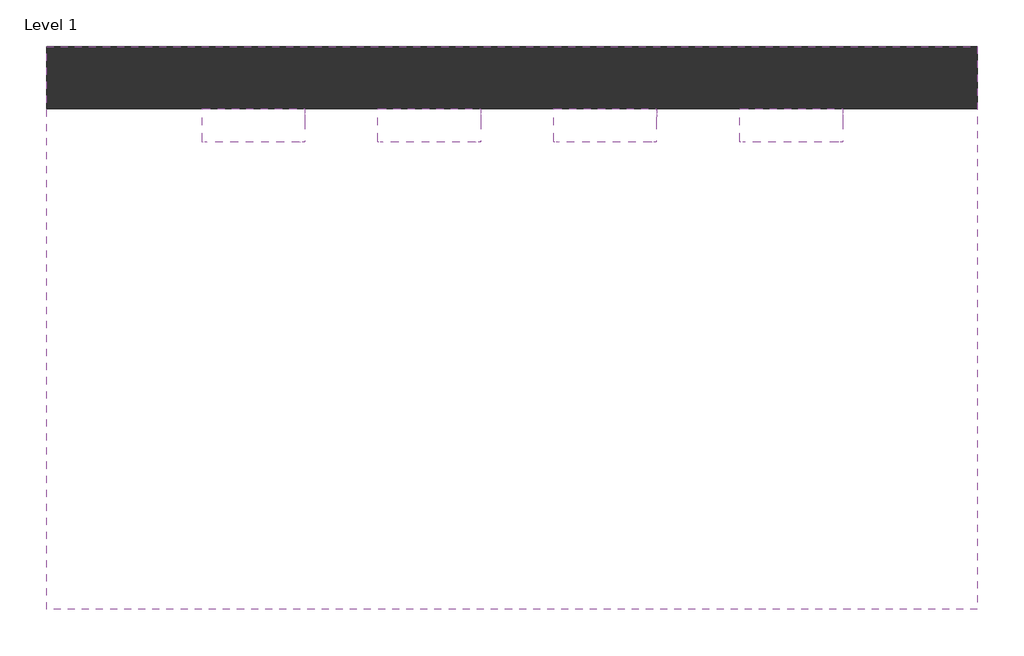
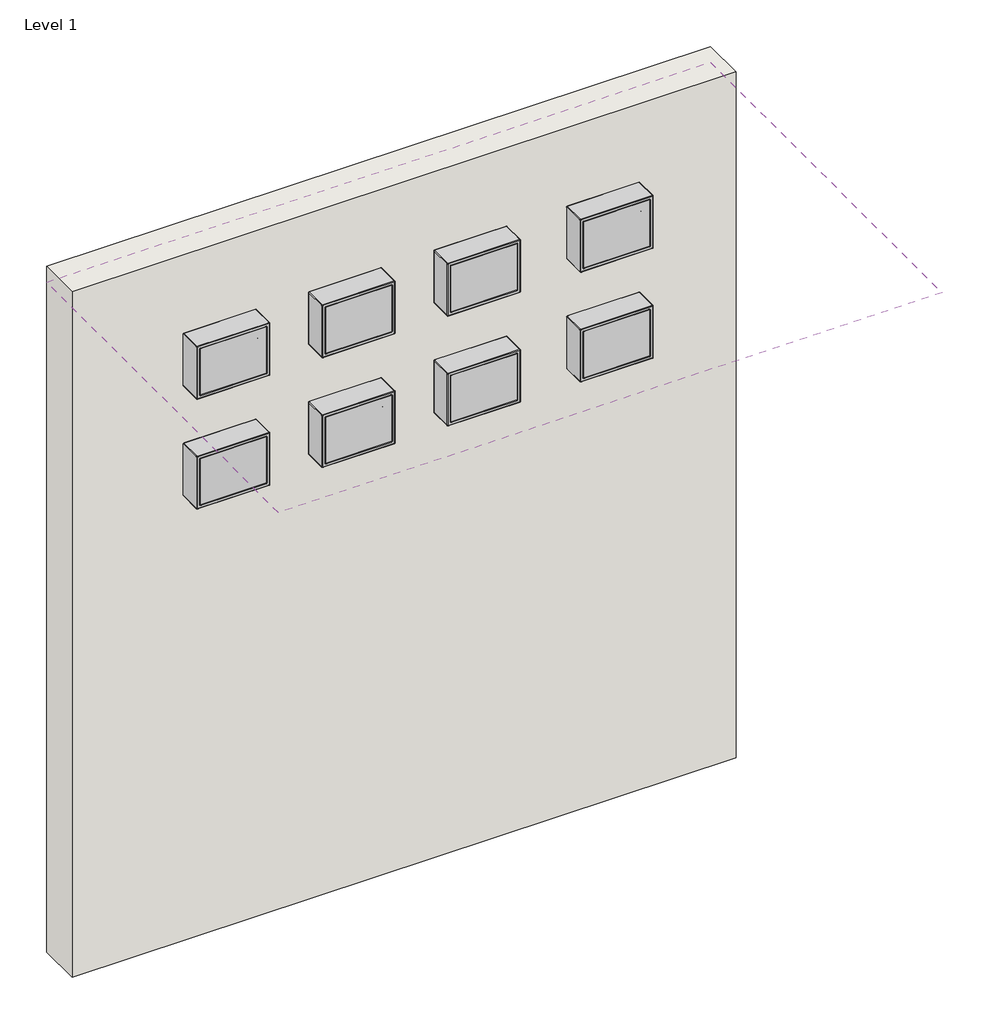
# One storey: 8 proxies, 1 covering, 1 wall.
"""IFC4 building model written with IfcOpenShell, lengths in millimetres."""

import ifcopenshell
import ifcopenshell.guid

model = None  # the IFC model being written
_history = None  # IfcOwnerHistory: only IFC2X3 demands one
_inside = {}  # id of a spatial element -> (the spatial element, [elements in it])
_under = {}  # id of a project, library or spatial element -> (it, [spatial elements below it])
_declared = {}  # id of a project -> (the project, [libraries it declares])
_typed = {}  # id of a type object -> (the type object, [elements of that type])
_made_of = {}  # id of a material, layer set ... -> (it, [elements and type objects made of it])


def new_model(schema):
    """Start an empty IFC model of exactly this schema.

    Asked for "IFC4X3", IfcOpenShell would pick the latest addendum, in which some entities
    have other attributes; the version numbers below select the first issue.
    IFC2X3 requires an IfcOwnerHistory on every rooted entity: one is made here for all.
    """
    global model, _history
    if schema == "IFC4X3":
        model = ifcopenshell.file(schema_version=(4, 3, 0, 0))
    else:
        model = ifcopenshell.file(schema=schema)
    _inside.clear()
    _under.clear()
    _declared.clear()
    _typed.clear()
    _made_of.clear()
    _history = None
    if model.schema == "IFC2X3":
        org = make("IfcOrganization", Name="unknown")
        user = make(
            "IfcPersonAndOrganization",
            ThePerson=make("IfcPerson", FamilyName="unknown"),
            TheOrganization=org,
        )
        app = make(
            "IfcApplication",
            ApplicationDeveloper=org,
            Version="unknown",
            ApplicationFullName="unknown",
            ApplicationIdentifier="unknown",
        )
        _history = make(
            "IfcOwnerHistory",
            OwningUser=user,
            OwningApplication=app,
            ChangeAction="ADDED",
            CreationDate=0,
        )
    return model


def make(cls, **values):
    """One entity of the class cls with the attributes given. An attribute that is None is left unset."""
    return model.create_entity(
        cls, **{name: value for name, value in values.items() if value is not None}
    )


def rooted(cls, **values):
    """An entity with a GlobalId (a new one), such as an element, a storey or a relation."""
    return make(cls, GlobalId=ifcopenshell.guid.new(), OwnerHistory=_history, **values)


def si_unit(unit_type, name, prefix=None):
    """IfcSIUnit, for example si_unit("LENGTHUNIT", "METRE", prefix="MILLI")."""
    return make("IfcSIUnit", UnitType=unit_type, Prefix=prefix, Name=name)


def assignment(units):
    """IfcUnitAssignment: the units of a project."""
    return None if units is None else make("IfcUnitAssignment", Units=units)


def point(xyz):
    """IfcCartesianPoint."""
    return None if xyz is None else make("IfcCartesianPoint", Coordinates=xyz)


def direction(xyz):
    """IfcDirection."""
    return None if xyz is None else make("IfcDirection", DirectionRatios=xyz)


def frame(location, z_axis=None, x_axis=None):
    """IfcAxis2Placement3D, a coordinate frame: its origin and axes. An axis left out is left unset."""
    return make(
        "IfcAxis2Placement3D",
        Location=point(location),
        Axis=direction(z_axis),
        RefDirection=direction(x_axis),
    )


def frame_2d(location, x_axis=None):
    """IfcAxis2Placement2D, a coordinate frame in the plane: its origin and x axis."""
    return make(
        "IfcAxis2Placement2D", Location=point(location), RefDirection=direction(x_axis)
    )


def origin():
    """The frame at (0, 0, 0) with its axes left unset."""
    return frame((0.0, 0.0, 0.0))


def origin_with_axes():
    """The frame at (0, 0, 0) with the z axis (0, 0, 1) and the x axis (1, 0, 0) written out."""
    return frame((0.0, 0.0, 0.0), z_axis=(0.0, 0.0, 1.0), x_axis=(1.0, 0.0, 0.0))


def place(relative_to, where):
    """IfcLocalPlacement: puts the frame where relative to a parent placement (None: the world)."""
    return make(
        "IfcLocalPlacement", PlacementRelTo=relative_to, RelativePlacement=where
    )


def context(
    kind, dimensions, precision=None, world=None, true_north=None, identifier=None
):
    """IfcGeometricRepresentationContext, for example the 3D "Model" context."""
    return make(
        "IfcGeometricRepresentationContext",
        ContextIdentifier=identifier,
        ContextType=kind,
        CoordinateSpaceDimension=dimensions,
        Precision=precision,
        WorldCoordinateSystem=world,
        TrueNorth=true_north,
    )


def project(units=None, contexts=None):
    """IfcProject with its units and contexts."""
    return rooted(
        "IfcProject",
        Name="project",
        RepresentationContexts=contexts,
        UnitsInContext=assignment(units),
    )


def spatial(cls, under=None, at=None, **own):
    """A site, building, storey or space (cls), placed at a placement, below another one or the project."""
    s = rooted(cls, ObjectPlacement=at, **own)
    if under is not None:
        _under.setdefault(under.id(), (under, []))[1].append(s)
    return s


def polyline(points):
    """IfcPolyline through the points."""
    return make("IfcPolyline", Points=[point(p) for p in points])


def circle_curve(where, radius):
    """IfcCircle in the frame where."""
    return make("IfcCircle", Position=where, Radius=radius)


def ellipse_curve(where, semi_axis1, semi_axis2):
    """IfcEllipse in the frame where."""
    return make(
        "IfcEllipse", Position=where, SemiAxis1=semi_axis1, SemiAxis2=semi_axis2
    )


def trimmed(basis, trim1, trim2, sense, master):
    """IfcTrimmedCurve: the piece of a basis curve between two trims."""
    return make(
        "IfcTrimmedCurve",
        BasisCurve=basis,
        Trim1=trim1,
        Trim2=trim2,
        SenseAgreement=sense,
        MasterRepresentation=master,
    )


def segment(curve, same_sense, transition):
    """IfcCompositeCurveSegment."""
    return make(
        "IfcCompositeCurveSegment",
        Transition=transition,
        SameSense=same_sense,
        ParentCurve=curve,
    )


def composite_curve(segments, self_intersect=None):
    """IfcCompositeCurve: segments joined end to end."""
    return make("IfcCompositeCurve", Segments=segments, SelfIntersect=self_intersect)


def outline(outer, holes=None, kind="AREA"):
    """IfcArbitraryClosedProfileDef: a profile drawn as a closed curve; with holes, ...WithVoids."""
    if holes is None:
        return make("IfcArbitraryClosedProfileDef", ProfileType=kind, OuterCurve=outer)
    return make(
        "IfcArbitraryProfileDefWithVoids",
        ProfileType=kind,
        OuterCurve=outer,
        InnerCurves=holes,
    )


def extrude(swept, where, along, depth):
    """IfcExtrudedAreaSolid: the profile swept, set in the frame where, extruded along a direction by depth."""
    return make(
        "IfcExtrudedAreaSolid",
        SweptArea=swept,
        Position=where,
        ExtrudedDirection=direction(along),
        Depth=depth,
    )


def faces_of(points, faces, orient=None, outer=None):
    """IfcFace entities. A face is a list of loops; a loop is a list of indices into points, from 0.

    orient and outer hold one flag for each loop. By default every Orientation is true, the
    first loop of a face is its IfcFaceOuterBound and the others are IfcFaceBound.
    """
    made = []
    for i, loops in enumerate(faces):
        bounds = []
        for j, loop in enumerate(loops):
            is_outer = j == 0 if outer is None else outer[i][j]
            bounds.append(
                make(
                    "IfcFaceOuterBound" if is_outer else "IfcFaceBound",
                    Bound=make("IfcPolyLoop", Polygon=[points[k] for k in loop]),
                    Orientation=True if orient is None else orient[i][j],
                )
            )
        made.append(make("IfcFace", Bounds=bounds))
    return made


def faceted_brep(points, faces, orient=None, outer=None, voids=None):
    """IfcFacetedBrep: a solid bounded by flat faces; with voids (closed shells), ...WithVoids."""
    shared = [point(p) for p in points]
    hull = make("IfcClosedShell", CfsFaces=faces_of(shared, faces, orient, outer))
    if voids is None:
        return make("IfcFacetedBrep", Outer=hull)
    return make(
        "IfcFacetedBrepWithVoids",
        Outer=hull,
        Voids=[
            make(cls, CfsFaces=faces_of(shared, fs, o, b)) for cls, fs, o, b in voids
        ],
    )


def shape(context_of_items, identifier, shape_type, items):
    """IfcShapeRepresentation: the items that make up one representation, for example the "Body"."""
    return make(
        "IfcShapeRepresentation",
        ContextOfItems=context_of_items,
        RepresentationIdentifier=identifier,
        RepresentationType=shape_type,
        Items=items,
    )


def source(mapping_origin, context_of_items, identifier, shape_type, items):
    """IfcRepresentationMap: a shape defined once, which mapped items show again and again."""
    return make(
        "IfcRepresentationMap",
        MappingOrigin=mapping_origin,
        MappedRepresentation=shape(context_of_items, identifier, shape_type, items),
    )


def transform(
    local_origin,
    x_axis=None,
    y_axis=None,
    z_axis=None,
    scale=None,
    scale2=None,
    scale3=None,
    uniform=True,
):
    """IfcCartesianTransformationOperator3D, or its non-uniform kind. x_axis, y_axis, z_axis: its Axis1, 2, 3."""
    if uniform:
        return make(
            "IfcCartesianTransformationOperator3D",
            Axis1=direction(x_axis),
            Axis2=direction(y_axis),
            LocalOrigin=point(local_origin),
            Scale=scale,
            Axis3=direction(z_axis),
        )
    return make(
        "IfcCartesianTransformationOperator3DnonUniform",
        Axis1=direction(x_axis),
        Axis2=direction(y_axis),
        LocalOrigin=point(local_origin),
        Scale=scale,
        Axis3=direction(z_axis),
        Scale2=scale2,
        Scale3=scale3,
    )


def mapped(mapping_source, mapping_target):
    """IfcMappedItem: shows the shape of a source again, moved by a transform."""
    return make(
        "IfcMappedItem", MappingSource=mapping_source, MappingTarget=mapping_target
    )


def made_of(thing, what):
    """Note that an element or type object is made of a material, layer set ...; save() writes the relation."""
    if what is not None:
        _made_of.setdefault(what.id(), (what, []))[1].append(thing)
    return thing


def element(
    cls,
    number,
    at=None,
    inside=None,
    cuts=None,
    type_object=None,
    material=None,
    context=None,
    identifier="Body",
    shape_type=None,
    held_by="IfcProductDefinitionShape",
    body=None,
    shapes=None,
    **own,
):
    """One element of the class cls, such as IfcWall. Its Tag is "e" and its number.

    at: its placement. inside: the storey or other place that contains it. cuts: it is an
    opening in that element (IfcRelVoidsElement). A single representation is given by context,
    identifier, shape_type and body (its items); several are given by shapes. held_by: the class
    of the entity that holds the representations. save() writes the other relations.
    """
    e = rooted(cls, Tag="e%d" % number, ObjectPlacement=at, **own)
    if body is not None:
        shapes = [shape(context, identifier, shape_type, body)]
    if shapes is not None:
        e.Representation = make(held_by, Representations=shapes)
    if inside is not None:
        _inside.setdefault(inside.id(), (inside, []))[1].append(e)
    if cuts is not None:
        rooted(
            "IfcRelVoidsElement", RelatingBuildingElement=cuts, RelatedOpeningElement=e
        )
    if type_object is not None:
        _typed.setdefault(type_object.id(), (type_object, []))[1].append(e)
    return made_of(e, material)


def aggregate(whole, parts):
    """IfcRelAggregates: a whole, such as a stair, and the parts it consists of."""
    return rooted("IfcRelAggregates", RelatingObject=whole, RelatedObjects=parts)


def save(model, path):
    """Write the relations noted so far, then the file.

    IfcRelAggregates (storeys below a building ...), IfcRelContainedInSpatialStructure (elements
    in a storey), IfcRelDefinesByType, IfcRelAssociatesMaterial and IfcRelDeclares: one each for
    every whole, place, type object, material and project.
    """
    for whole, parts in _under.values():
        aggregate(whole, parts)
    for where, things in _inside.values():
        rooted(
            "IfcRelContainedInSpatialStructure",
            RelatedElements=things,
            RelatingStructure=where,
        )
    for kind, things in _typed.values():
        rooted("IfcRelDefinesByType", RelatedObjects=things, RelatingType=kind)
    for what, things in _made_of.values():
        rooted("IfcRelAssociatesMaterial", RelatedObjects=things, RelatingMaterial=what)
    for by, libraries in _declared.values():
        rooted("IfcRelDeclares", RelatingContext=by, RelatedDefinitions=libraries)
    model.write(path)


def plane_surface(at):
    """IfcPlane: the flat surface through the origin of the frame at, square to its z axis."""
    return make("IfcPlane", Position=at)


def cylinder_surface(at, radius):
    """IfcCylindricalSurface: all points at the distance radius from the z axis of the frame at."""
    return make("IfcCylindricalSurface", Position=at, Radius=radius)


def revolved_surface(curve, axis_point, axis_direction):
    """IfcSurfaceOfRevolution: the curve turned about the line through axis_point along axis_direction."""
    return make(
        "IfcSurfaceOfRevolution",
        SweptCurve=make("IfcArbitraryOpenProfileDef", ProfileType="CURVE", Curve=curve),
        AxisPosition=make("IfcAxis1Placement", Location=point(axis_point), Axis=direction(axis_direction)),
    )


def advanced_brep(points, edges, surfaces, faces):
    """IfcAdvancedBrep: a solid bounded by faces that lie on surfaces and meet in shared edges.

    An edge is (start, end): straight between two places in points (the first is 0);
    or (start, end, curve); or (start, end, curve, False) where it runs against its curve.
    A face is (place in surfaces, loops), or (place, loops, False) where it looks against
    its surface's normal. A loop lists edges by number (the first is 1), with a minus sign
    where the edge is run from its end to its start. The first loop is the outer one.
    """
    corners = [point(p) for p in points]
    vertices = [make("IfcVertexPoint", VertexGeometry=c) for c in corners]
    made = []
    for start, end, *more in edges:
        made.append(
            make(
                "IfcEdgeCurve",
                EdgeStart=vertices[start],
                EdgeEnd=vertices[end],
                EdgeGeometry=more[0] if more else make("IfcPolyline", Points=[corners[start], corners[end]]),
                SameSense=more[1] if len(more) > 1 else True,
            )
        )
    hull = []
    for where, loops, *sense in faces:
        bounds = []
        for j, loop in enumerate(loops):
            ring = [make("IfcOrientedEdge", EdgeElement=made[abs(k) - 1], Orientation=k > 0) for k in loop]
            bounds.append(
                make(
                    "IfcFaceOuterBound" if j == 0 else "IfcFaceBound",
                    Bound=make("IfcEdgeLoop", EdgeList=ring),
                    Orientation=True,
                )
            )
        hull.append(make("IfcAdvancedFace", Bounds=bounds, FaceSurface=surfaces[where], SameSense=sense[0] if sense else True))
    return make("IfcAdvancedBrep", Outer=make("IfcClosedShell", CfsFaces=hull))


def communication_devices_0cf20ce7(model_context):
    return source(origin(), model_context, "Body", "SolidModel", [
        faceted_brep([(-94.9046082, 64.9046107, 68.8696979), (-108.9999975, 79.0, 74.0), (-108.9999975, -79.0, 74.0), (-94.9046082, -64.9046107, 68.8696979), (-115.9046082, 85.9046107, 79.0), (-115.9046082, 85.9046107, 66.8696979), (-115.9046082, -85.9046107, 66.8696979), (-115.9046082, -85.9046107, 79.0), (-113.9999975, 84.0, 74.0), (-113.9999975, 84.0, 79.0), (-113.9999975, -84.0, 79.0), (-113.9999975, -84.0, 74.0), (109.0000025, -79.0, 74.0), (94.9046132, -64.9046107, 68.8696979), (115.9046132, -85.9046107, 66.8696979), (115.9046132, -85.9046107, 79.0), (114.0000025, -84.0, 79.0), (114.0000025, -84.0, 74.0), (109.0000025, 79.0, 74.0), (94.9046132, 64.9046107, 68.8696979), (115.9046132, 85.9046107, 66.8696979), (115.9046132, 85.9046107, 79.0), (114.0000025, 84.0, 79.0), (114.0000025, 84.0, 74.0)], [[[0, 1, 2, 3]], [[4, 5, 6, 7]], [[8, 9, 10, 11]], [[3, 2, 12, 13]], [[7, 6, 14, 15]], [[11, 10, 16, 17]], [[13, 12, 18, 19]], [[15, 14, 20, 21]], [[17, 16, 22, 23]], [[8, 11, 17, 23], [2, 1, 18, 12]], [[1, 0, 19, 18]], [[0, 3, 13, 19]], [[6, 5, 20, 14]], [[5, 4, 21, 20]], [[4, 7, 15, 21], [10, 9, 22, 16]], [[9, 8, 23, 22]]]),
        extrude(outline(composite_curve([segment(polyline([(-112.9999975, 84.0), (113.0000025, 84.0)]), True, "CONTINUOUS"), segment(trimmed(circle_curve(frame_2d((113.0000025, 83.0)), 1.0), [point((113.0000025, 84.0))], [point((114.0000025, 83.0))], False, "CARTESIAN"), True, "CONTINUOUS"), segment(polyline([(114.0000025, 83.0), (114.0000025, -82.9728648)]), True, "CONTINUOUS"), segment(trimmed(circle_curve(frame_2d((112.9728673, -82.9728648)), 1.0271352), [point((114.0000025, -82.9728648))], [point((112.9728673, -84.0))], False, "CARTESIAN"), True, "CONTINUOUS"), segment(polyline([(112.9728673, -84.0), (-112.9999975, -84.0)]), True, "CONTINUOUS"), segment(trimmed(circle_curve(frame_2d((-112.9999975, -83.0)), 1.0), [point((-112.9999975, -84.0))], [point((-113.9999975, -83.0))], False, "CARTESIAN"), True, "CONTINUOUS"), segment(polyline([(-113.9999975, -83.0), (-113.9999975, 83.0)]), True, "CONTINUOUS"), segment(trimmed(circle_curve(frame_2d((-112.9999975, 83.0)), 1.0), [point((-113.9999975, 83.0))], [point((-112.9999975, 84.0))], False, "CARTESIAN"), True, "CONTINUOUS")], self_intersect=False)), frame((0.0, 0.0, 79.0), z_axis=(0.0, 0.0, 1.0), x_axis=(1.0, 0.0, 0.0)), (0.0, 0.0, 1.0), 2.0),
        advanced_brep(
        [(125.0, 5.75, 12.0), (125.0, 18.25, 12.0), (125.0, -5.75, 12.0), (125.0, -18.25, 12.0), (126.5, 5.75, 12.0), (126.5, 18.25, 12.0), (126.5, -5.75, 12.0), (126.5, -18.25, 12.0), (126.5, 21.0, 3.0), (126.5, 21.0, 21.0), (126.5, -21.0, 21.0), (126.5, -21.0, 3.0), (126.0039881, 21.0, 3.0), (126.0039881, 21.0, 21.0), (126.0039881, -21.0, 21.0), (126.0039881, -21.0, 3.0), (-112.9999975, -84.0, 80.0), (-113.9999975, -83.0, 80.0), (-115.9999975, -83.0, 82.0), (-112.9999975, -86.0, 82.0), (112.9728673, -86.0, 82.0), (112.9728673, -84.0, 80.0), (116.0000025, -82.9728648, 82.0), (114.0000025, -82.9728648, 80.0), (116.0000025, 83.0, 82.0), (114.0000025, 83.0, 80.0), (113.0000025, 86.0, 82.0), (113.0000025, 84.0, 80.0), (-112.9999975, 86.0, 82.0), (-112.9999975, 84.0, 80.0), (-115.9999975, 83.0, 82.0), (-113.9999975, 83.0, 80.0), (-112.9999975, -84.0, 79.0), (-113.9999975, -83.0, 79.0), (112.9728673, -84.0, 79.0), (114.0000025, -82.9728648, 79.0), (114.0000025, 83.0, 79.0), (113.0000025, 84.0, 79.0), (-112.9999975, 84.0, 79.0), (-113.9999975, 83.0, 79.0), (123.5039881, -93.5039906, 79.0), (-123.4552169, -93.5039906, 79.0), (-123.5039881, 93.4552194, 79.0), (123.4552169, 93.5039906, 79.0), (-123.4552169, -96.0039906, 80.5), (-126.0039881, -93.4552194, 80.5), (-126.0039881, -93.4552194, 79.0), (-123.4552169, -96.0039906, 79.0), (-123.4552169, -94.5039906, 82.0), (-124.5039881, -93.4552194, 82.0), (-123.4552169, -96.0039906, 3.0), (-123.4552169, -96.0039906, 1.5), (123.4552169, -96.0039906, 1.5), (123.4552169, -96.0039906, 3.0), (123.4552169, -96.0039906, 79.0), (123.4552169, -96.0039906, 80.5), (21.0, -96.0039906, 3.0), (-21.0, -96.0039906, 3.0), (-21.0, -96.0039906, 21.0), (21.0, -96.0039906, 21.0), (123.4552169, -94.5039906, 82.0), (126.0039881, -93.4552194, 79.0), (126.0039881, -93.4552194, 80.5), (124.5039881, -93.4552194, 82.0), (126.0039881, -93.4552194, 3.0), (126.0039881, -93.4552194, 1.5), (126.0039881, 93.4552194, 1.5), (126.0039881, 93.4552194, 3.0), (126.0039881, 93.4552194, 79.0), (126.0039881, 93.4552194, 80.5), (124.5039881, 93.4552194, 82.0), (123.4552169, 96.0039906, 79.0), (123.4552169, 96.0039906, 80.5), (123.4552169, 94.5039906, 82.0), (123.4552169, 96.0039906, 3.0), (123.4552169, 96.0039906, 1.5), (-123.4552169, 96.0039906, 1.5), (-123.4552169, 96.0039906, 3.0), (-123.4552169, 96.0039906, 79.0), (-123.4552169, 96.0039906, 80.5), (-123.4552169, 94.5039906, 82.0), (-126.0039881, 93.4552194, 79.0), (-126.0039881, 93.4552194, 80.5), (-124.5039881, 93.4552194, 82.0), (-126.0039881, 93.4552194, 3.0), (-126.0039881, 93.4552194, 1.5), (-126.0039881, -93.4552194, 1.5), (-126.0039881, -93.4552194, 3.0), (-124.5039881, -93.4552194, 0.0), (-123.4552169, -94.5039906, 0.0), (123.5039881, -93.5039906, 3.0), (-123.4552169, -93.5039906, 3.0), (123.4552169, -94.5039906, 0.0), (124.5039881, -93.4552194, 0.0), (123.5039881, 93.5039906, 3.0), (124.5039881, 93.4552194, 0.0), (123.4552169, 94.5039906, 0.0), (-123.5039881, 93.5039906, 3.0), (-123.4552169, 94.5039906, 0.0), (-124.5039881, 93.4552194, 0.0), (5.75, -95.0, 12.0), (18.25, -95.0, 12.0), (-5.75, -95.0, 12.0), (-18.25, -95.0, 12.0), (5.75, -96.0039906, 12.0), (18.25, -96.0039906, 12.0), (-5.75, -96.0039906, 12.0), (-18.25, -96.0039906, 12.0), (-21.0, -96.5, 3.0), (21.0, -96.5, 3.0), (21.0, -96.5, 21.0), (-21.0, -96.5, 21.0), (18.25, -96.5, 12.0), (5.75, -96.5, 12.0), (-18.25, -96.5, 12.0), (-5.75, -96.5, 12.0)],
        [
            (0, 1, circle_curve(frame((125.0, 12.0, 12.0), z_axis=(1.0, 0.0, 0.0), x_axis=(0.0, 1.0, 0.0)), 6.25)),
            (1, 0, circle_curve(frame((125.0, 12.0, 12.0), z_axis=(1.0, 0.0, 0.0), x_axis=(0.0, 1.0, 0.0)), 6.25)),
            (2, 3, circle_curve(frame((125.0, -12.0, 12.0), z_axis=(1.0, 0.0, 0.0), x_axis=(0.0, -1.0, 0.0)), 6.25)),
            (3, 2, circle_curve(frame((125.0, -12.0, 12.0), z_axis=(1.0, 0.0, 0.0), x_axis=(0.0, -1.0, 0.0)), 6.25)),
            (0, 4),
            (4, 5, circle_curve(frame((126.5, 12.0, 12.0), z_axis=(1.0, 0.0, 0.0), x_axis=(0.0, 1.0, 0.0)), 6.25)),
            (5, 1),
            (5, 4, circle_curve(frame((126.5, 12.0, 12.0), z_axis=(1.0, 0.0, 0.0), x_axis=(0.0, 1.0, 0.0)), 6.25)),
            (2, 6),
            (6, 7, circle_curve(frame((126.5, -12.0, 12.0), z_axis=(1.0, 0.0, 0.0), x_axis=(0.0, -1.0, 0.0)), 6.25)),
            (7, 3),
            (7, 6, circle_curve(frame((126.5, -12.0, 12.0), z_axis=(1.0, 0.0, 0.0), x_axis=(0.0, -1.0, 0.0)), 6.25)),
            (8, 9),
            (9, 10),
            (10, 11),
            (11, 8),
            (8, 12),
            (12, 13),
            (13, 9),
            (13, 14),
            (14, 10),
            (14, 15),
            (15, 11),
            (15, 12),
            (16, 17, circle_curve(frame((-112.9999975, -83.0, 80.0), z_axis=(0.0, 0.0, -1.0), x_axis=(-1.0, 0.0, 0.0)), 1.0)),
            (17, 18, circle_curve(frame((-115.9999975, -83.0, 80.0), z_axis=(0.0, -1.0, 0.0), x_axis=(1.0, 0.0, 0.0)), 2.0)),
            (18, 19, circle_curve(frame((-112.9999975, -83.0, 82.0), z_axis=(0.0, 0.0, 1.0), x_axis=(-1.0, 0.0, 0.0)), 3.0)),
            (19, 16, circle_curve(frame((-112.9999975, -86.0, 80.0), z_axis=(-1.0, 0.0, 0.0), x_axis=(0.0, 1.0, 0.0)), 2.0)),
            (19, 20),
            (20, 21, circle_curve(frame((112.9728673, -86.0, 80.0), z_axis=(-1.0, 0.0, 0.0), x_axis=(0.0, 1.0, 0.0)), 2.0)),
            (21, 16),
            (20, 22, circle_curve(frame((112.9728673, -82.9728648, 82.0), z_axis=(0.0, 0.0, 1.0), x_axis=(0.0, -1.0, 0.0)), 3.0271352)),
            (22, 23, circle_curve(frame((116.0000025, -82.9728648, 80.0), z_axis=(0.0, -1.0, 0.0), x_axis=(-1.0, 0.0, 0.0)), 2.0)),
            (23, 21, circle_curve(frame((112.9728673, -82.9728648, 80.0), z_axis=(0.0, 0.0, -1.0), x_axis=(0.0, -1.0, 0.0)), 1.0271352)),
            (22, 24),
            (24, 25, circle_curve(frame((116.0000025, 83.0, 80.0), z_axis=(0.0, -1.0, 0.0), x_axis=(-1.0, 0.0, 0.0)), 2.0)),
            (25, 23),
            (24, 26, circle_curve(frame((113.0000025, 83.0, 82.0), z_axis=(0.0, 0.0, 1.0), x_axis=(1.0, 0.0, 0.0)), 3.0)),
            (26, 27, circle_curve(frame((113.0000025, 86.0, 80.0), z_axis=(1.0, 0.0, 0.0), x_axis=(0.0, -1.0, 0.0)), 2.0)),
            (27, 25, circle_curve(frame((113.0000025, 83.0, 80.0), z_axis=(0.0, 0.0, -1.0), x_axis=(1.0, 0.0, 0.0)), 1.0)),
            (26, 28),
            (28, 29, circle_curve(frame((-112.9999975, 86.0, 80.0), z_axis=(1.0, 0.0, 0.0), x_axis=(0.0, -1.0, 0.0)), 2.0)),
            (29, 27),
            (28, 30, circle_curve(frame((-112.9999975, 83.0, 82.0), z_axis=(0.0, 0.0, 1.0), x_axis=(0.0, 1.0, 0.0)), 3.0)),
            (30, 31, circle_curve(frame((-115.9999975, 83.0, 80.0), z_axis=(0.0, 1.0, 0.0), x_axis=(1.0, 0.0, 0.0)), 2.0)),
            (31, 29, circle_curve(frame((-112.9999975, 83.0, 80.0), z_axis=(0.0, 0.0, -1.0), x_axis=(0.0, 1.0, 0.0)), 1.0)),
            (17, 31),
            (30, 18),
            (16, 32),
            (32, 33, circle_curve(frame((-112.9999975, -83.0, 79.0), z_axis=(0.0, 0.0, -1.0), x_axis=(-1.0, 0.0, 0.0)), 1.0)),
            (33, 17),
            (21, 34),
            (34, 32),
            (23, 35),
            (35, 34, circle_curve(frame((112.9728673, -82.9728648, 79.0), z_axis=(0.0, 0.0, -1.0), x_axis=(0.0, -1.0, 0.0)), 1.0271352)),
            (25, 36),
            (36, 35),
            (27, 37),
            (37, 36, circle_curve(frame((113.0000025, 83.0, 79.0), z_axis=(0.0, 0.0, -1.0), x_axis=(1.0, 0.0, 0.0)), 1.0)),
            (29, 38),
            (38, 37),
            (31, 39),
            (39, 38, circle_curve(frame((-112.9999975, 83.0, 79.0), z_axis=(0.0, 0.0, -1.0), x_axis=(0.0, 1.0, 0.0)), 1.0)),
            (33, 39),
            (40, 41),
            (41, 42),
            (42, 43),
            (43, 40),
            (44, 45, circle_curve(frame((-123.4552169, -93.4552194, 80.5), z_axis=(0.0, 0.0, -1.0), x_axis=(-1.0, 0.0, 0.0)), 2.5487712)),
            (45, 46),
            (46, 47, circle_curve(frame((-123.4552169, -93.4552194, 79.0), z_axis=(0.0, 0.0, 1.0), x_axis=(-1.0, 0.0, 0.0)), 2.5487712)),
            (47, 44),
            (44, 48, circle_curve(frame((-123.4552169, -94.5039906, 80.5), z_axis=(-1.0, 0.0, 0.0), x_axis=(0.0, 1.0, 0.0)), 1.5)),
            (48, 49, circle_curve(frame((-123.4552169, -93.4552194, 82.0), z_axis=(0.0, 0.0, -1.0), x_axis=(-1.0, 0.0, 0.0)), 1.0487712)),
            (49, 45, circle_curve(frame((-124.5039881, -93.4552194, 80.5), z_axis=(0.0, -1.0, 0.0), x_axis=(1.0, 0.0, 0.0)), 1.5)),
            (47, 50),
            (50, 51),
            (51, 52),
            (52, 53),
            (53, 54),
            (54, 55),
            (55, 44),
            (56, 57),
            (57, 58),
            (58, 59),
            (59, 56),
            (55, 60, circle_curve(frame((123.4552169, -94.5039906, 80.5), z_axis=(-1.0, 0.0, 0.0), x_axis=(0.0, 1.0, 0.0)), 1.5)),
            (60, 48),
            (54, 61, circle_curve(frame((123.4552169, -93.4552194, 79.0), z_axis=(0.0, 0.0, 1.0), x_axis=(0.0, -1.0, 0.0)), 2.5487712)),
            (61, 62),
            (62, 55, circle_curve(frame((123.4552169, -93.4552194, 80.5), z_axis=(0.0, 0.0, -1.0), x_axis=(0.0, -1.0, 0.0)), 2.5487712)),
            (62, 63, circle_curve(frame((124.5039881, -93.4552194, 80.5), z_axis=(0.0, -1.0, 0.0), x_axis=(-1.0, 0.0, 0.0)), 1.5)),
            (63, 60, circle_curve(frame((123.4552169, -93.4552194, 82.0), z_axis=(0.0, 0.0, -1.0), x_axis=(0.0, -1.0, 0.0)), 1.0487712)),
            (61, 64),
            (64, 65),
            (65, 66),
            (66, 67),
            (67, 68),
            (68, 69),
            (69, 62),
            (69, 70, circle_curve(frame((124.5039881, 93.4552194, 80.5), z_axis=(0.0, -1.0, 0.0), x_axis=(-1.0, 0.0, 0.0)), 1.5)),
            (70, 63),
            (68, 71, circle_curve(frame((123.4552169, 93.4552194, 79.0), z_axis=(0.0, 0.0, 1.0), x_axis=(1.0, 0.0, 0.0)), 2.5487712)),
            (71, 72),
            (72, 69, circle_curve(frame((123.4552169, 93.4552194, 80.5), z_axis=(0.0, 0.0, -1.0), x_axis=(1.0, 0.0, 0.0)), 2.5487712)),
            (72, 73, circle_curve(frame((123.4552169, 94.5039906, 80.5), z_axis=(1.0, 0.0, 0.0), x_axis=(0.0, -1.0, 0.0)), 1.5)),
            (73, 70, circle_curve(frame((123.4552169, 93.4552194, 82.0), z_axis=(0.0, 0.0, -1.0), x_axis=(1.0, 0.0, 0.0)), 1.0487712)),
            (71, 74),
            (74, 75),
            (75, 76),
            (76, 77),
            (77, 78),
            (78, 79),
            (79, 72),
            (79, 80, circle_curve(frame((-123.4552169, 94.5039906, 80.5), z_axis=(1.0, 0.0, 0.0), x_axis=(0.0, -1.0, 0.0)), 1.5)),
            (80, 73),
            (78, 81, circle_curve(frame((-123.4552169, 93.4552194, 79.0), z_axis=(0.0, 0.0, 1.0), x_axis=(0.0, 1.0, 0.0)), 2.5487712)),
            (81, 82),
            (82, 79, circle_curve(frame((-123.4552169, 93.4552194, 80.5), z_axis=(0.0, 0.0, -1.0), x_axis=(0.0, 1.0, 0.0)), 2.5487712)),
            (82, 83, circle_curve(frame((-124.5039881, 93.4552194, 80.5), z_axis=(0.0, 1.0, 0.0), x_axis=(1.0, 0.0, 0.0)), 1.5)),
            (83, 80, circle_curve(frame((-123.4552169, 93.4552194, 82.0), z_axis=(0.0, 0.0, -1.0), x_axis=(0.0, 1.0, 0.0)), 1.0487712)),
            (45, 82),
            (81, 84),
            (84, 85),
            (85, 86),
            (86, 87),
            (87, 46),
            (49, 83),
            (51, 86, circle_curve(frame((-123.4552169, -93.4552194, 1.5), z_axis=(0.0, 0.0, -1.0), x_axis=(-1.0, 0.0, 0.0)), 2.5487712)),
            (86, 88, circle_curve(frame((-124.5039881, -93.4552194, 1.5), z_axis=(0.0, -1.0, 0.0), x_axis=(1.0, 0.0, 0.0)), 1.5)),
            (88, 89, circle_curve(frame((-123.4552169, -93.4552194, 0.0), z_axis=(0.0, 0.0, 1.0), x_axis=(-1.0, 0.0, 0.0)), 1.0487712)),
            (89, 51, circle_curve(frame((-123.4552169, -94.5039906, 1.5), z_axis=(-1.0, 0.0, 0.0), x_axis=(0.0, 1.0, 0.0)), 1.5)),
            (50, 87, circle_curve(frame((-123.4552169, -93.4552194, 3.0), z_axis=(0.0, 0.0, -1.0), x_axis=(-1.0, 0.0, 0.0)), 2.5487712)),
            (40, 90),
            (90, 91),
            (91, 41),
            (89, 92),
            (92, 52, circle_curve(frame((123.4552169, -94.5039906, 1.5), z_axis=(-1.0, 0.0, 0.0), x_axis=(0.0, 1.0, 0.0)), 1.5)),
            (92, 93, circle_curve(frame((123.4552169, -93.4552194, 0.0), z_axis=(0.0, 0.0, 1.0), x_axis=(0.0, -1.0, 0.0)), 1.0487712)),
            (93, 65, circle_curve(frame((124.5039881, -93.4552194, 1.5), z_axis=(0.0, -1.0, 0.0), x_axis=(-1.0, 0.0, 0.0)), 1.5)),
            (65, 52, circle_curve(frame((123.4552169, -93.4552194, 1.5), z_axis=(0.0, 0.0, -1.0), x_axis=(0.0, -1.0, 0.0)), 2.5487712)),
            (64, 53, circle_curve(frame((123.4552169, -93.4552194, 3.0), z_axis=(0.0, 0.0, -1.0), x_axis=(0.0, -1.0, 0.0)), 2.5487712)),
            (43, 94),
            (94, 90),
            (93, 95),
            (95, 66, circle_curve(frame((124.5039881, 93.4552194, 1.5), z_axis=(0.0, -1.0, 0.0), x_axis=(-1.0, 0.0, 0.0)), 1.5)),
            (95, 96, circle_curve(frame((123.4552169, 93.4552194, 0.0), z_axis=(0.0, 0.0, 1.0), x_axis=(1.0, 0.0, 0.0)), 1.0487712)),
            (96, 75, circle_curve(frame((123.4552169, 94.5039906, 1.5), z_axis=(1.0, 0.0, 0.0), x_axis=(0.0, -1.0, 0.0)), 1.5)),
            (75, 66, circle_curve(frame((123.4552169, 93.4552194, 1.5), z_axis=(0.0, 0.0, -1.0), x_axis=(1.0, 0.0, 0.0)), 2.5487712)),
            (74, 67, circle_curve(frame((123.4552169, 93.4552194, 3.0), z_axis=(0.0, 0.0, -1.0), x_axis=(1.0, 0.0, 0.0)), 2.5487712)),
            (42, 97),
            (97, 94),
            (96, 98),
            (98, 76, circle_curve(frame((-123.4552169, 94.5039906, 1.5), z_axis=(1.0, 0.0, 0.0), x_axis=(0.0, -1.0, 0.0)), 1.5)),
            (98, 99, circle_curve(frame((-123.4552169, 93.4552194, 0.0), z_axis=(0.0, 0.0, 1.0), x_axis=(0.0, 1.0, 0.0)), 1.0487712)),
            (99, 85, circle_curve(frame((-124.5039881, 93.4552194, 1.5), z_axis=(0.0, 1.0, 0.0), x_axis=(1.0, 0.0, 0.0)), 1.5)),
            (85, 76, circle_curve(frame((-123.4552169, 93.4552194, 1.5), z_axis=(0.0, 0.0, -1.0), x_axis=(0.0, 1.0, 0.0)), 2.5487712)),
            (84, 77, circle_curve(frame((-123.4552169, 93.4552194, 3.0), z_axis=(0.0, 0.0, -1.0), x_axis=(0.0, 1.0, 0.0)), 2.5487712)),
            (91, 97),
            (88, 99),
            (100, 101, circle_curve(frame((12.0, -95.0, 12.0), z_axis=(0.0, -1.0, 0.0), x_axis=(1.0, 0.0, 0.0)), 6.25)),
            (101, 100, circle_curve(frame((12.0, -95.0, 12.0), z_axis=(0.0, -1.0, 0.0), x_axis=(1.0, 0.0, 0.0)), 6.25)),
            (102, 103, circle_curve(frame((-12.0, -95.0, 12.0), z_axis=(0.0, -1.0, 0.0), x_axis=(-1.0, 0.0, 0.0)), 6.25)),
            (103, 102, circle_curve(frame((-12.0, -95.0, 12.0), z_axis=(0.0, -1.0, 0.0), x_axis=(-1.0, 0.0, 0.0)), 6.25)),
            (100, 104),
            (104, 105, circle_curve(frame((12.0, -96.0039906, 12.0), z_axis=(0.0, -1.0, 0.0), x_axis=(1.0, 0.0, 0.0)), 6.25)),
            (105, 101),
            (105, 104, circle_curve(frame((12.0, -96.0039906, 12.0), z_axis=(0.0, -1.0, 0.0), x_axis=(1.0, 0.0, 0.0)), 6.25)),
            (102, 106),
            (106, 107, circle_curve(frame((-12.0, -96.0039906, 12.0), z_axis=(0.0, -1.0, 0.0), x_axis=(-1.0, 0.0, 0.0)), 6.25)),
            (107, 103),
            (107, 106, circle_curve(frame((-12.0, -96.0039906, 12.0), z_axis=(0.0, -1.0, 0.0), x_axis=(-1.0, 0.0, 0.0)), 6.25)),
            (108, 109),
            (109, 110),
            (110, 111),
            (111, 108),
            (112, 113, circle_curve(frame((12.0, -96.5, 12.0), z_axis=(0.0, 1.0, 0.0), x_axis=(1.0, 0.0, 0.0)), 6.25)),
            (113, 112, circle_curve(frame((12.0, -96.5, 12.0), z_axis=(0.0, 1.0, 0.0), x_axis=(1.0, 0.0, 0.0)), 6.25)),
            (114, 115, circle_curve(frame((-12.0, -96.5, 12.0), z_axis=(0.0, 1.0, 0.0), x_axis=(-1.0, 0.0, 0.0)), 6.25)),
            (115, 114, circle_curve(frame((-12.0, -96.5, 12.0), z_axis=(0.0, 1.0, 0.0), x_axis=(-1.0, 0.0, 0.0)), 6.25)),
            (108, 57),
            (56, 109),
            (59, 110),
            (58, 111),
            (112, 105),
            (104, 113),
            (114, 107),
            (106, 115),
        ],
        [
            plane_surface(frame((125.0, 18.25, 12.0), z_axis=(1.0, 0.0, 0.0), x_axis=(0.0, 0.0, -1.0))),
            revolved_surface(polyline([(126.5, 18.25, 12.0), (125.0, 18.25, 12.0)]), (125.0, 12.0, 12.0), (1.0, 0.0, 0.0)),
            revolved_surface(polyline([(126.5, -18.25, 12.0), (125.0, -18.25, 12.0)]), (0.0, -12.0, 12.0), (1.0, 0.0, 0.0)),
            plane_surface(frame((126.5, 21.0, 18.25), z_axis=(1.0, 0.0, 0.0), x_axis=(0.0, 0.0, 1.0))),
            plane_surface(frame((126.5, 21.0, 3.0), z_axis=(0.0, 1.0, 0.0), x_axis=(-1.0, 0.0, 0.0))),
            plane_surface(frame((126.5, 21.0, 21.0), z_axis=(0.0, 0.0, 1.0), x_axis=(-1.0, 0.0, 0.0))),
            plane_surface(frame((126.5, -21.0, 21.0), z_axis=(0.0, -1.0, 0.0), x_axis=(-1.0, 0.0, 0.0))),
            plane_surface(frame((126.5, -21.0, 3.0), z_axis=(0.0, 0.0, -1.0), x_axis=(-1.0, 0.0, 0.0))),
            revolved_surface(trimmed(ellipse_curve(frame((-115.9999975, -83.0, 80.0), z_axis=(0.0, 1.0, 0.0), x_axis=(1.0, 0.0, 0.0)), 2.0, 2.0), [point((-115.9999975, -83.0, 82.0))], [point((-113.9999975, -83.0, 80.0))], True, "CARTESIAN"), (-112.9999975, -83.0, 0.0), (0.0, 0.0, 1.0)),
            cylinder_surface(frame((-112.9999975, -86.0, 80.0), z_axis=(-1.0, 0.0, 0.0), x_axis=(0.0, 1.0, 0.0)), 2.0),
            revolved_surface(trimmed(ellipse_curve(frame((112.9728673, -86.0, 80.0), z_axis=(-1.0, 0.0, 0.0), x_axis=(0.0, 1.0, 0.0)), 2.0, 2.0), [point((112.9728673, -86.0, 82.0))], [point((112.9728673, -84.0, 80.0))], True, "CARTESIAN"), (112.9728673, -82.9728648, 0.0), (0.0, 0.0, 1.0)),
            cylinder_surface(frame((116.0000025, -82.9728648, 80.0), z_axis=(0.0, -1.0, 0.0), x_axis=(-1.0, 0.0, 0.0)), 2.0),
            revolved_surface(trimmed(ellipse_curve(frame((116.0000025, 83.0, 80.0), z_axis=(0.0, -1.0, 0.0), x_axis=(-1.0, 0.0, 0.0)), 2.0, 2.0), [point((116.0000025, 83.0, 82.0))], [point((114.0000025, 83.0, 80.0))], True, "CARTESIAN"), (113.0000025, 83.0, 0.0), (0.0, 0.0, 1.0)),
            cylinder_surface(frame((113.0000025, 86.0, 80.0), z_axis=(1.0, 0.0, 0.0), x_axis=(0.0, -1.0, 0.0)), 2.0),
            revolved_surface(trimmed(ellipse_curve(frame((-112.9999975, 86.0, 80.0), z_axis=(1.0, 0.0, 0.0), x_axis=(0.0, -1.0, 0.0)), 2.0, 2.0), [point((-112.9999975, 86.0, 82.0))], [point((-112.9999975, 84.0, 80.0))], True, "CARTESIAN"), (-112.9999975, 83.0, 0.0), (0.0, 0.0, 1.0)),
            cylinder_surface(frame((-115.9999975, 83.0, 80.0), z_axis=(0.0, 1.0, 0.0), x_axis=(1.0, 0.0, 0.0)), 2.0),
            revolved_surface(polyline([(-113.9999975, -83.0, 80.0), (-113.9999975, -83.0, 79.0)]), (-112.9999975, -83.0, 0.0), (0.0, 0.0, 1.0)),
            plane_surface(frame((-112.9999975, -84.0, 80.0), z_axis=(0.0, 1.0, 0.0), x_axis=(1.0, 0.0, 0.0))),
            revolved_surface(polyline([(112.9728673, -84.0, 80.0), (112.9728673, -84.0, 79.0)]), (112.9728673, -82.9728648, 0.0), (0.0, 0.0, 1.0)),
            plane_surface(frame((114.0000025, -82.9728648, 80.0), z_axis=(-1.0, 0.0, 0.0), x_axis=(0.0, 1.0, 0.0))),
            revolved_surface(polyline([(114.0000025, 83.0, 80.0), (114.0000025, 83.0, 79.0)]), (113.0000025, 83.0, 0.0), (0.0, 0.0, 1.0)),
            plane_surface(frame((113.0000025, 84.0, 80.0), z_axis=(0.0, -1.0, 0.0), x_axis=(-1.0, 0.0, 0.0))),
            revolved_surface(polyline([(-112.9999975, 84.0, 80.0), (-112.9999975, 84.0, 79.0)]), (-112.9999975, 83.0, 0.0), (0.0, 0.0, 1.0)),
            plane_surface(frame((-113.9999975, 83.0, 80.0), z_axis=(1.0, 0.0, 0.0), x_axis=(0.0, -1.0, 0.0))),
            plane_surface(frame((-113.9999975, 83.0, 79.0), z_axis=(0.0, 0.0, -1.0), x_axis=(0.0, -1.0, 0.0))),
            cylinder_surface(frame((-123.4552169, -93.4552194, 0.0), z_axis=(0.0, 0.0, 1.0), x_axis=(-1.0, 0.0, 0.0)), 2.5487712),
            revolved_surface(trimmed(ellipse_curve(frame((-124.5039881, -93.4552194, 80.5), z_axis=(0.0, 1.0, 0.0), x_axis=(1.0, 0.0, 0.0)), 1.5, 1.5), [point((-126.0039881, -93.4552194, 80.5))], [point((-124.5039881, -93.4552194, 82.0))], True, "CARTESIAN"), (-123.4552169, -93.4552194, 0.0), (0.0, 0.0, 1.0)),
            plane_surface(frame((-123.4552169, -96.0039906, 79.0), z_axis=(0.0, -1.0, 0.0), x_axis=(1.0, 0.0, 0.0))),
            cylinder_surface(frame((-123.4552169, -94.5039906, 80.5), z_axis=(-1.0, 0.0, 0.0), x_axis=(0.0, 1.0, 0.0)), 1.5),
            cylinder_surface(frame((123.4552169, -93.4552194, 0.0), z_axis=(0.0, 0.0, 1.0), x_axis=(0.0, -1.0, 0.0)), 2.5487712),
            revolved_surface(trimmed(ellipse_curve(frame((123.4552169, -94.5039906, 80.5), z_axis=(-1.0, 0.0, 0.0), x_axis=(0.0, 1.0, 0.0)), 1.5, 1.5), [point((123.4552169, -96.0039906, 80.5))], [point((123.4552169, -94.5039906, 82.0))], True, "CARTESIAN"), (123.4552169, -93.4552194, 0.0), (0.0, 0.0, 1.0)),
            plane_surface(frame((126.0039881, -93.4552194, 79.0), z_axis=(1.0, 0.0, 0.0), x_axis=(0.0, 1.0, 0.0))),
            cylinder_surface(frame((124.5039881, -93.4552194, 80.5), z_axis=(0.0, -1.0, 0.0), x_axis=(-1.0, 0.0, 0.0)), 1.5),
            cylinder_surface(frame((123.4552169, 93.4552194, 0.0), z_axis=(0.0, 0.0, 1.0), x_axis=(1.0, 0.0, 0.0)), 2.5487712),
            revolved_surface(trimmed(ellipse_curve(frame((124.5039881, 93.4552194, 80.5), z_axis=(0.0, -1.0, 0.0), x_axis=(-1.0, 0.0, 0.0)), 1.5, 1.5), [point((126.0039881, 93.4552194, 80.5))], [point((124.5039881, 93.4552194, 82.0))], True, "CARTESIAN"), (123.4552169, 93.4552194, 0.0), (0.0, 0.0, 1.0)),
            plane_surface(frame((123.4552169, 96.0039906, 79.0), z_axis=(0.0, 1.0, 0.0), x_axis=(-1.0, 0.0, 0.0))),
            cylinder_surface(frame((123.4552169, 94.5039906, 80.5), z_axis=(1.0, 0.0, 0.0), x_axis=(0.0, -1.0, 0.0)), 1.5),
            cylinder_surface(frame((-123.4552169, 93.4552194, 0.0), z_axis=(0.0, 0.0, 1.0), x_axis=(0.0, 1.0, 0.0)), 2.5487712),
            revolved_surface(trimmed(ellipse_curve(frame((-123.4552169, 94.5039906, 80.5), z_axis=(1.0, 0.0, 0.0), x_axis=(0.0, -1.0, 0.0)), 1.5, 1.5), [point((-123.4552169, 96.0039906, 80.5))], [point((-123.4552169, 94.5039906, 82.0))], True, "CARTESIAN"), (-123.4552169, 93.4552194, 0.0), (0.0, 0.0, 1.0)),
            plane_surface(frame((-126.0039881, 93.4552194, 79.0), z_axis=(-1.0, 0.0, 0.0), x_axis=(0.0, -1.0, 0.0))),
            cylinder_surface(frame((-124.5039881, 93.4552194, 80.5), z_axis=(0.0, 1.0, 0.0), x_axis=(1.0, 0.0, 0.0)), 1.5),
            plane_surface(frame((-124.5039881, 93.4552194, 82.0), z_axis=(0.0, 0.0, 1.0), x_axis=(0.0, -1.0, 0.0))),
            revolved_surface(trimmed(ellipse_curve(frame((-124.5039881, -93.4552194, 1.5), z_axis=(0.0, 1.0, 0.0), x_axis=(1.0, 0.0, 0.0)), 1.5, 1.5), [point((-124.5039881, -93.4552194, 0.0))], [point((-126.0039881, -93.4552194, 1.5))], True, "CARTESIAN"), (-123.4552169, -93.4552194, 0.0), (0.0, 0.0, 1.0)),
            plane_surface(frame((-123.4552169, -93.5039906, 3.0), z_axis=(0.0, 1.0, 0.0), x_axis=(1.0, 0.0, 0.0))),
            cylinder_surface(frame((-123.4552169, -94.5039906, 1.5), z_axis=(-1.0, 0.0, 0.0), x_axis=(0.0, 1.0, 0.0)), 1.5),
            revolved_surface(trimmed(ellipse_curve(frame((123.4552169, -94.5039906, 1.5), z_axis=(-1.0, 0.0, 0.0), x_axis=(0.0, 1.0, 0.0)), 1.5, 1.5), [point((123.4552169, -94.5039906, 0.0))], [point((123.4552169, -96.0039906, 1.5))], True, "CARTESIAN"), (123.4552169, -93.4552194, 0.0), (0.0, 0.0, 1.0)),
            plane_surface(frame((123.5039881, -93.4552194, 3.0), z_axis=(-1.0, 0.0, 0.0), x_axis=(0.0, 1.0, 0.0))),
            cylinder_surface(frame((124.5039881, -93.4552194, 1.5), z_axis=(0.0, -1.0, 0.0), x_axis=(-1.0, 0.0, 0.0)), 1.5),
            revolved_surface(trimmed(ellipse_curve(frame((124.5039881, 93.4552194, 1.5), z_axis=(0.0, -1.0, 0.0), x_axis=(-1.0, 0.0, 0.0)), 1.5, 1.5), [point((124.5039881, 93.4552194, 0.0))], [point((126.0039881, 93.4552194, 1.5))], True, "CARTESIAN"), (123.4552169, 93.4552194, 0.0), (0.0, 0.0, 1.0)),
            plane_surface(frame((123.4552169, 93.5039906, 3.0), z_axis=(0.0, -1.0, 0.0), x_axis=(-1.0, 0.0, 0.0))),
            cylinder_surface(frame((123.4552169, 94.5039906, 1.5), z_axis=(1.0, 0.0, 0.0), x_axis=(0.0, -1.0, 0.0)), 1.5),
            revolved_surface(trimmed(ellipse_curve(frame((-123.4552169, 94.5039906, 1.5), z_axis=(1.0, 0.0, 0.0), x_axis=(0.0, -1.0, 0.0)), 1.5, 1.5), [point((-123.4552169, 94.5039906, 0.0))], [point((-123.4552169, 96.0039906, 1.5))], True, "CARTESIAN"), (-123.4552169, 93.4552194, 0.0), (0.0, 0.0, 1.0)),
            plane_surface(frame((-123.5039881, 93.4552194, 3.0), z_axis=(1.0, 0.0, 0.0), x_axis=(0.0, -1.0, 0.0))),
            plane_surface(frame((-123.5039881, 93.4552194, 0.0), z_axis=(0.0, 0.0, -1.0), x_axis=(0.0, -1.0, 0.0))),
            cylinder_surface(frame((-124.5039881, 93.4552194, 1.5), z_axis=(0.0, 1.0, 0.0), x_axis=(1.0, 0.0, 0.0)), 1.5),
            plane_surface(frame((-124.0039881, -93.8, 3.0), z_axis=(0.0, 0.0, 1.0), x_axis=(0.0, -1.0, 0.0))),
            plane_surface(frame((18.25, -95.0, 12.0), z_axis=(0.0, -1.0, 0.0), x_axis=(0.0, 0.0, -1.0))),
            revolved_surface(polyline([(18.25, -96.0039906, 12.0), (18.25, -95.0, 12.0)]), (12.0, -95.0, 12.0), (0.0, -1.0, 0.0)),
            revolved_surface(polyline([(-18.25, -96.0039906, 12.0), (-18.25, -95.0, 12.0)]), (-12.0, 0.0, 12.0), (0.0, -1.0, 0.0)),
            plane_surface(frame((23.1205005, -96.5, 3.0), z_axis=(0.0, -1.0, 0.0), x_axis=(1.0, 0.0, 0.0))),
            plane_surface(frame((-21.0, -96.5, 3.0), z_axis=(0.0, 0.0, -1.0), x_axis=(0.0, 1.0, 0.0))),
            plane_surface(frame((21.0, -96.5, 3.0), z_axis=(1.0, 0.0, 0.0), x_axis=(0.0, 1.0, 0.0))),
            plane_surface(frame((21.0, -96.5, 21.0), z_axis=(0.0, 0.0, 1.0), x_axis=(0.0, 1.0, 0.0))),
            plane_surface(frame((-21.0, -96.5, 21.0), z_axis=(-1.0, 0.0, 0.0), x_axis=(0.0, 1.0, 0.0))),
            revolved_surface(polyline([(18.25, -96.5, 12.0), (18.25, -96.0039906, 12.0)]), (12.0, -95.0, 12.0), (0.0, -1.0, 0.0)),
            revolved_surface(polyline([(-18.25, -96.5, 12.0), (-18.25, -96.0039906, 12.0)]), (-12.0, 0.0, 12.0), (0.0, -1.0, 0.0)),
        ],
        [
            (0, [[1, 2]]),
            (0, [[3, 4]]),
            (1, [[-1, 5, 6, 7]]),
            (1, [[-2, -7, 8, -5]]),
            (2, [[-3, 9, 10, 11]]),
            (2, [[-4, -11, 12, -9]]),
            (3, [[13, 14, 15, 16], [-6, -8], [-10, -12]]),
            (4, [[-13, 17, 18, 19]]),
            (5, [[-14, -19, 20, 21]]),
            (6, [[-15, -21, 22, 23]]),
            (7, [[-16, -23, 24, -17]]),
            (8, [[25, 26, 27, 28]]),
            (9, [[-28, 29, 30, 31]]),
            (10, [[-30, 32, 33, 34]]),
            (11, [[-33, 35, 36, 37]]),
            (12, [[-36, 38, 39, 40]]),
            (13, [[-39, 41, 42, 43]]),
            (14, [[-42, 44, 45, 46]]),
            (15, [[-26, 47, -45, 48]]),
            (16, [[-25, 49, 50, 51]]),
            (17, [[-31, 52, 53, -49]]),
            (18, [[-34, 54, 55, -52]]),
            (19, [[-37, 56, 57, -54]]),
            (20, [[-40, 58, 59, -56]]),
            (21, [[-43, 60, 61, -58]]),
            (22, [[-46, 62, 63, -60]]),
            (23, [[-47, -51, 64, -62]]),
            (24, [[65, 66, 67, 68], [-50, -53, -55, -57, -59, -61, -63, -64]]),
            (25, [[69, 70, 71, 72]]),
            (26, [[-69, 73, 74, 75]]),
            (27, [[-72, 76, 77, 78, 79, 80, 81, 82], [83, 84, 85, 86]]),
            (28, [[-73, -82, 87, 88]]),
            (29, [[-81, 89, 90, 91]]),
            (30, [[-87, -91, 92, 93]]),
            (31, [[-90, 94, 95, 96, 97, 98, 99, 100], [-18, -24, -22, -20]]),
            (32, [[-92, -100, 101, 102]]),
            (33, [[-99, 103, 104, 105]]),
            (34, [[-101, -105, 106, 107]]),
            (35, [[-104, 108, 109, 110, 111, 112, 113, 114]]),
            (36, [[-106, -114, 115, 116]]),
            (37, [[-113, 117, 118, 119]]),
            (38, [[-115, -119, 120, 121]]),
            (39, [[-70, 122, -118, 123, 124, 125, 126, 127]]),
            (40, [[-75, 128, -120, -122]]),
            (41, [[-74, -88, -93, -102, -107, -116, -121, -128], [-27, -48, -44, -41, -38, -35, -32, -29]]),
            (42, [[129, 130, 131, 132]]),
            (25, [[-77, 133, -126, -129]]),
            (43, [[-65, 134, 135, 136]]),
            (44, [[-78, -132, 137, 138]]),
            (45, [[-138, 139, 140, 141]]),
            (29, [[-79, -141, -95, 142]]),
            (46, [[-68, 143, 144, -134]]),
            (47, [[-96, -140, 145, 146]]),
            (48, [[-146, 147, 148, 149]]),
            (33, [[-97, -149, -109, 150]]),
            (49, [[-67, 151, 152, -143]]),
            (50, [[-110, -148, 153, 154]]),
            (51, [[-154, 155, 156, 157]]),
            (37, [[-111, -157, -124, 158]]),
            (52, [[-66, -136, 159, -151]]),
            (53, [[-131, 160, -155, -153, -147, -145, -139, -137]]),
            (54, [[-125, -156, -160, -130]]),
            (25, [[-71, -127, -133, -76]]),
            (29, [[-80, -142, -94, -89]]),
            (33, [[-98, -150, -108, -103]]),
            (37, [[-112, -158, -123, -117]]),
            (55, [[-135, -144, -152, -159]]),
            (56, [[161, 162]]),
            (56, [[163, 164]]),
            (57, [[-161, 165, 166, 167]]),
            (57, [[-162, -167, 168, -165]]),
            (58, [[-163, 169, 170, 171]]),
            (58, [[-164, -171, 172, -169]]),
            (59, [[173, 174, 175, 176], [177, 178], [179, 180]]),
            (60, [[-173, 181, -83, 182]]),
            (61, [[-174, -182, -86, 183]]),
            (62, [[-175, -183, -85, 184]]),
            (63, [[-176, -184, -84, -181]]),
            (64, [[-177, 185, -166, 186]]),
            (64, [[-178, -186, -168, -185]]),
            (65, [[-179, 187, -170, 188]]),
            (65, [[-180, -188, -172, -187]]),
        ],
    ),
    ])


model = new_model("IFC4")

# Units and contexts
model_context = context("Model", 3, world=origin())
ifc_project = project(units=[si_unit("LENGTHUNIT", "METRE", prefix="MILLI")], contexts=[model_context])

# Site, building, storey
site = spatial("IfcSite", under=ifc_project)
building = spatial("IfcBuilding", under=site)
storey = spatial("IfcBuildingStorey", under=building, Name="Level 1", Elevation=0.0)

# Proxies
placement = place(None, origin())
communication_devices_shape = communication_devices_0cf20ce7(model_context)
element("IfcBuildingElementProxy", 1, Name="WA 06-165T Metal-EN54 STR : WA 06-165/T Metal-EN54 STR", ObjectType="WA 06-165T Metal-EN54 STR : WA 06-165/T Metal-EN54 STR", at=placement, inside=storey, context=model_context, shape_type="MappedRepresentation", body=[
    mapped(communication_devices_shape, transform((2341.1973575, 1963.1766815, 2115.55), x_axis=(1.0, 0.0, 0.0), y_axis=(0.0, 0.0, 1.0), z_axis=(0.0, -1.0, 0.0))),
])
element("IfcBuildingElementProxy", 2, Name="WA 06-165T Metal-EN54 STR : WA 06-165/T Metal-EN54 STR", ObjectType="WA 06-165T Metal-EN54 STR : WA 06-165/T Metal-EN54 STR", at=placement, inside=storey, context=model_context, shape_type="MappedRepresentation", body=[
    mapped(communication_devices_shape, transform((2772.9973575, 1963.1766815, 2115.55), x_axis=(1.0, 0.0, 0.0), y_axis=(0.0, 0.0, 1.0), z_axis=(0.0, -1.0, 0.0))),
])
element("IfcBuildingElementProxy", 3, Name="WA 06-165T Metal-EN54 STR : WA 06-165/T Metal-EN54 STR", ObjectType="WA 06-165T Metal-EN54 STR : WA 06-165/T Metal-EN54 STR", at=placement, inside=storey, context=model_context, shape_type="MappedRepresentation", body=[
    mapped(communication_devices_shape, transform((3204.7973575, 1963.1766815, 2115.55), x_axis=(1.0, 0.0, 0.0), y_axis=(0.0, 0.0, 1.0), z_axis=(0.0, -1.0, 0.0))),
])
element("IfcBuildingElementProxy", 4, Name="WA 06-165T Metal-EN54 STR : WA 06-165/T Metal-EN54 STR", ObjectType="WA 06-165T Metal-EN54 STR : WA 06-165/T Metal-EN54 STR", at=placement, inside=storey, context=model_context, shape_type="MappedRepresentation", body=[
    mapped(communication_devices_shape, transform((3661.9973575, 1963.1766815, 2115.55), x_axis=(1.0, 0.0, 0.0), y_axis=(0.0, 0.0, 1.0), z_axis=(0.0, -1.0, 0.0))),
])
element("IfcBuildingElementProxy", 5, Name="WA 06-165T Metal-EN54 STR : WA 06-165/T Metal-EN54 STR", ObjectType="WA 06-165T Metal-EN54 STR : WA 06-165/T Metal-EN54 STR", at=placement, inside=storey, context=model_context, shape_type="MappedRepresentation", body=[
    mapped(communication_devices_shape, transform((2341.1973575, 1963.1766815, 1715.55), x_axis=(1.0, 0.0, 0.0), y_axis=(0.0, 0.0, 1.0), z_axis=(0.0, -1.0, 0.0))),
])
element("IfcBuildingElementProxy", 6, Name="WA 06-165T Metal-EN54 STR : WA 06-165/T Metal-EN54 STR", ObjectType="WA 06-165T Metal-EN54 STR : WA 06-165/T Metal-EN54 STR", at=placement, inside=storey, context=model_context, shape_type="MappedRepresentation", body=[
    mapped(communication_devices_shape, transform((2772.9973575, 1963.1766815, 1715.55), x_axis=(1.0, 0.0, 0.0), y_axis=(0.0, 0.0, 1.0), z_axis=(0.0, -1.0, 0.0))),
])
element("IfcBuildingElementProxy", 7, Name="WA 06-165T Metal-EN54 STR : WA 06-165/T Metal-EN54 STR", ObjectType="WA 06-165T Metal-EN54 STR : WA 06-165/T Metal-EN54 STR", at=placement, inside=storey, context=model_context, shape_type="MappedRepresentation", body=[
    mapped(communication_devices_shape, transform((3204.7973575, 1963.1766815, 1715.55), x_axis=(1.0, 0.0, 0.0), y_axis=(0.0, 0.0, 1.0), z_axis=(0.0, -1.0, 0.0))),
])
element("IfcBuildingElementProxy", 8, Name="WA 06-165T Metal-EN54 STR : WA 06-165/T Metal-EN54 STR", ObjectType="WA 06-165T Metal-EN54 STR : WA 06-165/T Metal-EN54 STR", at=placement, inside=storey, context=model_context, shape_type="MappedRepresentation", body=[
    mapped(communication_devices_shape, transform((3661.9973575, 1963.1766815, 1715.55), x_axis=(1.0, 0.0, 0.0), y_axis=(0.0, 0.0, 1.0), z_axis=(0.0, -1.0, 0.0))),
])

# Covering
element("IfcCovering", 9, ObjectType="2' x 4' ACT System", at=placement, inside=storey, context=model_context, shape_type="SweptSolid", body=[
    extrude(outline(polyline([(1833.1973575, 2115.5766815), (4119.1973575, 2115.5766815), (4119.1973575, 732.2741036), (1833.1973575, 732.2741036), (1833.1973575, 2115.5766815)])), frame((0.0, 0.0, 2438.4), z_axis=(0.0, 0.0, 1.0), x_axis=(1.0, 0.0, 0.0)), (0.0, 0.0, 1.0), 57.15),
])

# Wall
element("IfcWall", 10, ObjectType="Exterior - 6\" Generic", at=placement, inside=storey, context=model_context, shape_type="SweptSolid", body=[
    extrude(outline(polyline([(4119.1973575, 1963.1766815), (1833.1973575, 1963.1766815), (1833.1973575, 2115.5766815), (4119.1973575, 2115.5766815), (4119.1973575, 1963.1766815)])), origin_with_axes(), (0.0, 0.0, 1.0), 2495.55),
])

save(model, "model.ifc")
